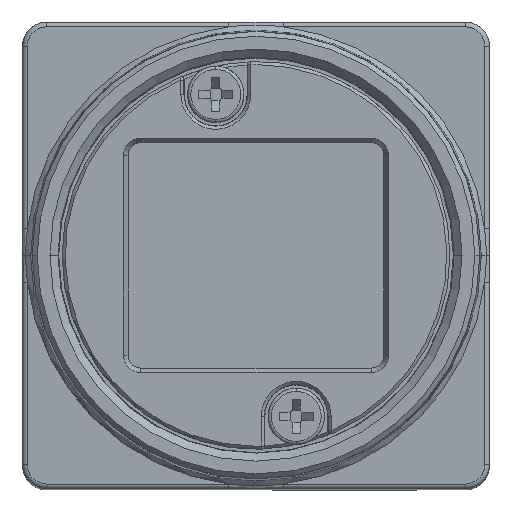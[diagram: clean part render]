
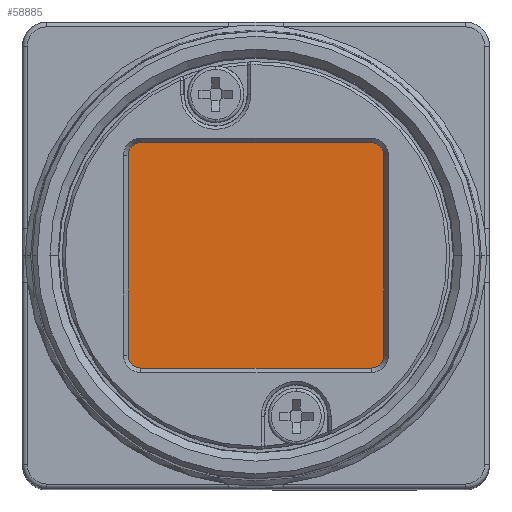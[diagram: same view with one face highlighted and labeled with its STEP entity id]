
A CAD part, top view. The second image highlights one B-rep face of the part: STEP entity #58885.
In plain terms, the highlighted planar face has unit normal (0, 0, 1).
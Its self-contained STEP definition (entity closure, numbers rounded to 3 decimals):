
#16609=DIRECTION('',(1.,0.,0.));
#16610=VECTOR('',#16609,14.3);
#16611=CARTESIAN_POINT('',(-7.15,-7.024,-0.5));
#16612=LINE('',#16611,#16610);
#16616=CARTESIAN_POINT('',(-7.15,-6.2,-0.5));
#16617=DIRECTION('',(0.,0.,-1.));
#16618=DIRECTION('',(0.,-1.,0.));
#16619=AXIS2_PLACEMENT_3D('',#16616,#16617,#16618);
#16624=DIRECTION('',(0.,-1.,0.));
#16625=VECTOR('',#16624,12.4);
#16626=CARTESIAN_POINT('',(-7.974,6.2,-0.5));
#16627=LINE('',#16626,#16625);
#16631=CARTESIAN_POINT('',(-7.15,6.2,-0.5));
#16632=DIRECTION('',(0.,0.,-1.));
#16633=DIRECTION('',(-1.,0.,0.));
#16634=AXIS2_PLACEMENT_3D('',#16631,#16632,#16633);
#16639=DIRECTION('',(-1.,0.,0.));
#16640=VECTOR('',#16639,14.3);
#16641=CARTESIAN_POINT('',(7.15,7.024,-0.5));
#16642=LINE('',#16641,#16640);
#16646=CARTESIAN_POINT('',(7.15,6.2,-0.5));
#16647=DIRECTION('',(0.,0.,-1.));
#16648=DIRECTION('',(0.,1.,0.));
#16649=AXIS2_PLACEMENT_3D('',#16646,#16647,#16648);
#16654=DIRECTION('',(0.,1.,0.));
#16655=VECTOR('',#16654,12.4);
#16656=CARTESIAN_POINT('',(7.974,-6.2,-0.5));
#16657=LINE('',#16656,#16655);
#16661=CARTESIAN_POINT('',(7.15,-6.2,-0.5));
#16662=DIRECTION('',(0.,0.,-1.));
#16663=DIRECTION('',(1.,0.,0.));
#16664=AXIS2_PLACEMENT_3D('',#16661,#16662,#16663);
#40699=CARTESIAN_POINT('',(-7.15,-7.024,-0.5));
#40700=CARTESIAN_POINT('',(7.15,-7.024,-0.5));
#40701=VERTEX_POINT('',#40699);
#40702=VERTEX_POINT('',#40700);
#40703=CARTESIAN_POINT('',(-7.974,-6.2,-0.5));
#40704=VERTEX_POINT('',#40703);
#40705=CARTESIAN_POINT('',(-7.974,6.2,-0.5));
#40706=VERTEX_POINT('',#40705);
#40707=CARTESIAN_POINT('',(7.974,-6.2,-0.5));
#40708=CARTESIAN_POINT('',(7.974,6.2,-0.5));
#40709=VERTEX_POINT('',#40707);
#40710=VERTEX_POINT('',#40708);
#40711=CARTESIAN_POINT('',(7.15,7.024,-0.5));
#40712=VERTEX_POINT('',#40711);
#40713=CARTESIAN_POINT('',(-7.15,7.024,-0.5));
#40714=VERTEX_POINT('',#40713);
#58862=CARTESIAN_POINT('',(0.,0.,-0.5));
#58863=DIRECTION('',(0.,0.,1.));
#58864=DIRECTION('',(1.,0.,0.));
#58865=AXIS2_PLACEMENT_3D('',#58862,#58863,#58864);
#58866=PLANE('',#58865);
#58868=ORIENTED_EDGE('',*,*,#58867,.F.);
#58870=ORIENTED_EDGE('',*,*,#58869,.T.);
#58872=ORIENTED_EDGE('',*,*,#58871,.F.);
#58874=ORIENTED_EDGE('',*,*,#58873,.T.);
#58876=ORIENTED_EDGE('',*,*,#58875,.F.);
#58878=ORIENTED_EDGE('',*,*,#58877,.T.);
#58880=ORIENTED_EDGE('',*,*,#58879,.F.);
#58882=ORIENTED_EDGE('',*,*,#58881,.T.);
#58883=EDGE_LOOP('',(#58868,#58870,#58872,#58874,#58876,#58878,#58880,#58882));
#58884=FACE_OUTER_BOUND('',#58883,.F.);
#58885=ADVANCED_FACE('',(#58884),#58866,.T.);
#16620=CIRCLE('',#16619,0.824);
#16635=CIRCLE('',#16634,0.824);
#16650=CIRCLE('',#16649,0.824);
#16665=CIRCLE('',#16664,0.824);
#58867=EDGE_CURVE('',#40701,#40702,#16612,.T.);
#58869=EDGE_CURVE('',#40701,#40704,#16620,.T.);
#58871=EDGE_CURVE('',#40706,#40704,#16627,.T.);
#58873=EDGE_CURVE('',#40706,#40714,#16635,.T.);
#58875=EDGE_CURVE('',#40712,#40714,#16642,.T.);
#58877=EDGE_CURVE('',#40712,#40710,#16650,.T.);
#58879=EDGE_CURVE('',#40709,#40710,#16657,.T.);
#58881=EDGE_CURVE('',#40709,#40702,#16665,.T.);
